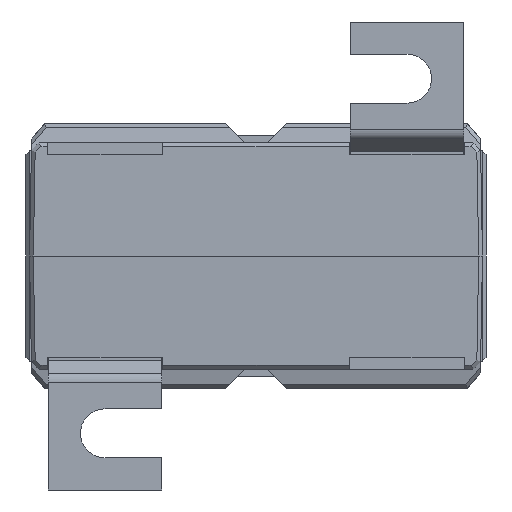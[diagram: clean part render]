
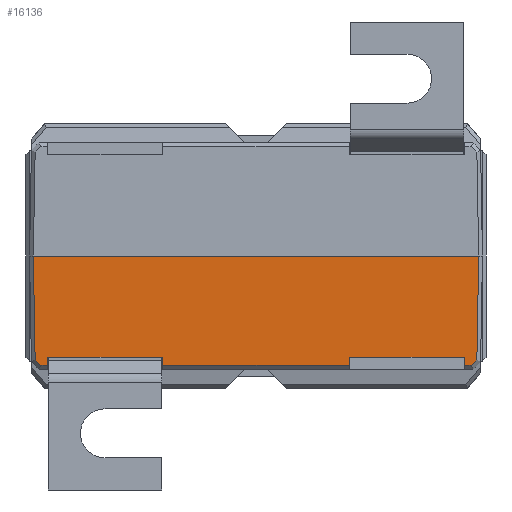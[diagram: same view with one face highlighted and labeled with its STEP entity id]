
A CAD part, front view. The second image highlights one B-rep face of the part: STEP entity #16136.
In plain terms, the highlighted planar face has unit normal (0, -1, -0.018) as drawn and (0, -1, 0.017) by its records, which use the part's own axes.
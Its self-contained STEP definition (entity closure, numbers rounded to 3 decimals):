
#15101 = EDGE_CURVE ( 'NONE', #15231, #28147, #48586, .T. ) ;
#15231 = VERTEX_POINT ( 'NONE', #48781 ) ;
#16008 = VERTEX_POINT ( 'NONE', #49689 ) ;
#16012 = VERTEX_POINT ( 'NONE', #49690 ) ;
#16020 = EDGE_LOOP ( 'NONE', ( #16139, #16145, #16108, #16116, #16142, #16127, #16110, #16131, #16101, #16103, #16125, #16107, #16078, #16220 ) ) ;
#16078 = ORIENTED_EDGE ( 'NONE', *, *, #16083, .F. ) ;
#16080 = EDGE_CURVE ( 'NONE', #16215, #16135, #49735, .T. ) ;
#16083 = EDGE_CURVE ( 'NONE', #16215, #16218, #49789, .T. ) ;
#16100 = EDGE_CURVE ( 'NONE', #16114, #16129, #49775, .T. ) ;
#16101 = ORIENTED_EDGE ( 'NONE', *, *, #16100, .T. ) ;
#16102 = EDGE_CURVE ( 'NONE', #16129, #16132, #49781, .T. ) ;
#16103 = ORIENTED_EDGE ( 'NONE', *, *, #16102, .T. ) ;
#16104 = EDGE_CURVE ( 'NONE', #16112, #16132, #49765, .T. ) ;
#16107 = ORIENTED_EDGE ( 'NONE', *, *, #16214, .T. ) ;
#16108 = ORIENTED_EDGE ( 'NONE', *, *, #16147, .F. ) ;
#16110 = ORIENTED_EDGE ( 'NONE', *, *, #15101, .T. ) ;
#16112 = VERTEX_POINT ( 'NONE', #49762 ) ;
#16114 = VERTEX_POINT ( 'NONE', #49820 ) ;
#16116 = ORIENTED_EDGE ( 'NONE', *, *, #16150, .T. ) ;
#16118 = EDGE_CURVE ( 'NONE', #16012, #16143, #49815, .T. ) ;
#16120 = EDGE_CURVE ( 'NONE', #16143, #15231, #49819, .T. ) ;
#16122 = EDGE_CURVE ( 'NONE', #28147, #16114, #49813, .T. ) ;
#16125 = ORIENTED_EDGE ( 'NONE', *, *, #16104, .F. ) ;
#16127 = ORIENTED_EDGE ( 'NONE', *, *, #16120, .T. ) ;
#16129 = VERTEX_POINT ( 'NONE', #49805 ) ;
#16131 = ORIENTED_EDGE ( 'NONE', *, *, #16122, .T. ) ;
#16132 = VERTEX_POINT ( 'NONE', #49809 ) ;
#16133 = VERTEX_POINT ( 'NONE', #49816 ) ;
#16135 = VERTEX_POINT ( 'NONE', #49814 ) ;
#16136 = ADVANCED_FACE ( 'NONE', ( #49797 ), #49801, .T. ) ;
#16137 = VERTEX_POINT ( 'NONE', #49795 ) ;
#16139 = ORIENTED_EDGE ( 'NONE', *, *, #16156, .F. ) ;
#16140 = EDGE_CURVE ( 'NONE', #16008, #16133, #49853, .T. ) ;
#16142 = ORIENTED_EDGE ( 'NONE', *, *, #16118, .T. ) ;
#16143 = VERTEX_POINT ( 'NONE', #49798 ) ;
#16145 = ORIENTED_EDGE ( 'NONE', *, *, #16140, .F. ) ;
#16147 = EDGE_CURVE ( 'NONE', #16137, #16008, #49847, .T. ) ;
#16150 = EDGE_CURVE ( 'NONE', #16137, #16012, #49817, .T. ) ;
#16156 = EDGE_CURVE ( 'NONE', #16133, #16135, #49835, .T. ) ;
#16214 = EDGE_CURVE ( 'NONE', #16112, #16218, #49862, .T. ) ;
#16215 = VERTEX_POINT ( 'NONE', #49893 ) ;
#16218 = VERTEX_POINT ( 'NONE', #49894 ) ;
#16220 = ORIENTED_EDGE ( 'NONE', *, *, #16080, .T. ) ;
#28147 = VERTEX_POINT ( 'NONE', #53476 ) ;
#48586 = LINE ( 'NONE', #48628, #48622 ) ;
#48622 = VECTOR ( 'NONE', #48641, 1000. ) ;
#48628 = CARTESIAN_POINT ( 'NONE',  ( -30., -31., 0. ) ) ;
#48641 = DIRECTION ( 'NONE',  ( 1., 0., 0. ) ) ;
#48781 = CARTESIAN_POINT ( 'NONE',  ( -29.5, -31., 0. ) ) ;
#49689 = CARTESIAN_POINT ( 'NONE',  ( -27.608, -30.766, 13.4 ) ) ;
#49690 = CARTESIAN_POINT ( 'NONE',  ( -28.509, -30.747, 14.5 ) ) ;
#49734 = CARTESIAN_POINT ( 'NONE',  ( -28.72, -30.747, 14.5 ) ) ;
#49735 = LINE ( 'NONE', #49734, #49791 ) ;
#49739 = VECTOR ( 'NONE', #49761, 1000. ) ;
#49758 = DIRECTION ( 'NONE',  ( -1., 0., 0. ) ) ;
#49759 = VECTOR ( 'NONE', #49758, 1000. ) ;
#49761 = DIRECTION ( 'NONE',  ( -0.719, 0.012, 0.695 ) ) ;
#49762 = CARTESIAN_POINT ( 'NONE',  ( 27.608, -30.766, 13.4 ) ) ;
#49763 = DIRECTION ( 'NONE',  ( 0.009, 0.017, 1. ) ) ;
#49764 = CARTESIAN_POINT ( 'NONE',  ( 27.487, -31.009, -0.502 ) ) ;
#49765 = LINE ( 'NONE', #49764, #49818 ) ;
#49766 = CARTESIAN_POINT ( 'NONE',  ( 28.368, -30.745, 14.636 ) ) ;
#49774 = CARTESIAN_POINT ( 'NONE',  ( -28.72, -30.747, 14.5 ) ) ;
#49775 = LINE ( 'NONE', #49766, #49739 ) ;
#49781 = LINE ( 'NONE', #49774, #49759 ) ;
#49786 = DIRECTION ( 'NONE',  ( 0.009, -0.017, -1. ) ) ;
#49787 = VECTOR ( 'NONE', #49786, 1000. ) ;
#49788 = CARTESIAN_POINT ( 'NONE',  ( 12.505, -30.994, 0.371 ) ) ;
#49789 = LINE ( 'NONE', #49788, #49787 ) ;
#49790 = DIRECTION ( 'NONE',  ( -1., 0., 0. ) ) ;
#49791 = VECTOR ( 'NONE', #49790, 1000. ) ;
#49792 = DIRECTION ( 'NONE',  ( 0., -0.017, -1. ) ) ;
#49793 = DIRECTION ( 'NONE',  ( 0., -1., 0.017 ) ) ;
#49794 = CARTESIAN_POINT ( 'NONE',  ( -30., -31., 0. ) ) ;
#49795 = CARTESIAN_POINT ( 'NONE',  ( -27.618, -30.747, 14.5 ) ) ;
#49797 = FACE_OUTER_BOUND ( 'NONE', #16020, .T. ) ;
#49798 = CARTESIAN_POINT ( 'NONE',  ( -29.259, -30.76, 13.776 ) ) ;
#49800 = AXIS2_PLACEMENT_3D ( 'NONE', #49794, #49793, #49792 ) ;
#49801 = PLANE ( 'NONE',  #49800 ) ;
#49802 = DIRECTION ( 'NONE',  ( -0.017, 0.017, 1. ) ) ;
#49803 = VECTOR ( 'NONE', #49802, 1000. ) ;
#49804 = CARTESIAN_POINT ( 'NONE',  ( 29.482, -30.982, 1.038 ) ) ;
#49805 = CARTESIAN_POINT ( 'NONE',  ( 28.509, -30.747, 14.5 ) ) ;
#49806 = DIRECTION ( 'NONE',  ( -0.017, -0.017, -1. ) ) ;
#49807 = VECTOR ( 'NONE', #49806, 1000. ) ;
#49808 = CARTESIAN_POINT ( 'NONE',  ( -29.5, -31., -0.009 ) ) ;
#49809 = CARTESIAN_POINT ( 'NONE',  ( 27.618, -30.747, 14.5 ) ) ;
#49810 = DIRECTION ( 'NONE',  ( -0.719, -0.012, -0.695 ) ) ;
#49811 = VECTOR ( 'NONE', #49810, 1000. ) ;
#49812 = CARTESIAN_POINT ( 'NONE',  ( -29.404, -30.762, 13.636 ) ) ;
#49813 = LINE ( 'NONE', #49804, #49803 ) ;
#49814 = CARTESIAN_POINT ( 'NONE',  ( -12.382, -30.747, 14.5 ) ) ;
#49815 = LINE ( 'NONE', #49812, #49811 ) ;
#49816 = CARTESIAN_POINT ( 'NONE',  ( -12.392, -30.766, 13.4 ) ) ;
#49817 = LINE ( 'NONE', #49841, #49840 ) ;
#49818 = VECTOR ( 'NONE', #49763, 1000. ) ;
#49819 = LINE ( 'NONE', #49808, #49807 ) ;
#49820 = CARTESIAN_POINT ( 'NONE',  ( 29.259, -30.76, 13.775 ) ) ;
#49832 = DIRECTION ( 'NONE',  ( 0.009, 0.017, 1. ) ) ;
#49833 = VECTOR ( 'NONE', #49832, 1000. ) ;
#49834 = CARTESIAN_POINT ( 'NONE',  ( -12.51, -31.003, -0.153 ) ) ;
#49835 = LINE ( 'NONE', #49834, #49833 ) ;
#49839 = DIRECTION ( 'NONE',  ( -1., 0., 0. ) ) ;
#49840 = VECTOR ( 'NONE', #49839, 1000. ) ;
#49841 = CARTESIAN_POINT ( 'NONE',  ( -28.72, -30.747, 14.5 ) ) ;
#49844 = DIRECTION ( 'NONE',  ( 0.009, -0.017, -1. ) ) ;
#49845 = VECTOR ( 'NONE', #49844, 1000. ) ;
#49846 = CARTESIAN_POINT ( 'NONE',  ( -27.491, -31., 0.022 ) ) ;
#49847 = LINE ( 'NONE', #49846, #49845 ) ;
#49850 = DIRECTION ( 'NONE',  ( 1., 0., 0. ) ) ;
#49851 = VECTOR ( 'NONE', #49850, 1000. ) ;
#49852 = CARTESIAN_POINT ( 'NONE',  ( -30., -30.766, 13.4 ) ) ;
#49853 = LINE ( 'NONE', #49852, #49851 ) ;
#49861 = CARTESIAN_POINT ( 'NONE',  ( -30., -30.766, 13.4 ) ) ;
#49862 = LINE ( 'NONE', #49861, #49900 ) ;
#49892 = DIRECTION ( 'NONE',  ( -1., 0., 0. ) ) ;
#49893 = CARTESIAN_POINT ( 'NONE',  ( 12.382, -30.747, 14.5 ) ) ;
#49894 = CARTESIAN_POINT ( 'NONE',  ( 12.392, -30.766, 13.4 ) ) ;
#49900 = VECTOR ( 'NONE', #49892, 1000. ) ;
#53476 = CARTESIAN_POINT ( 'NONE',  ( 29.5, -31., 0. ) ) ;
